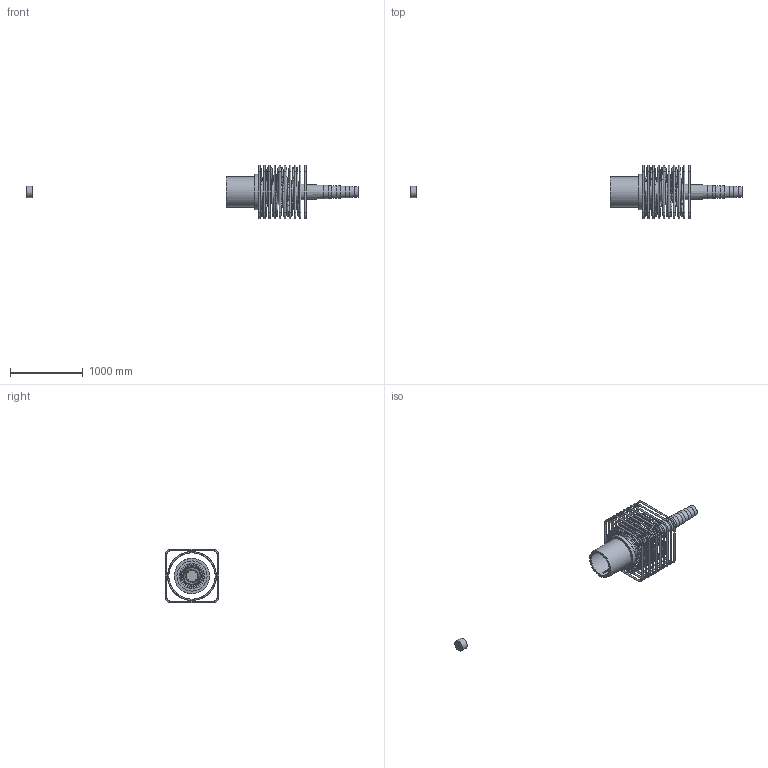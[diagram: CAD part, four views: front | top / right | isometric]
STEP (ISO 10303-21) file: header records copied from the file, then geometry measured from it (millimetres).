
FILE_DESCRIPTION(/* description */ (''),/* implementation_level */ '2;1');
FILE_NAME(/* name */ 'BBR VT CONA CMI BT 4306_Coupler H Assembly_CS-34,28.stp',/* time_stamp */ '2025-05-21T13:43:31+02:00',/* author */ ('tk'),/* organization */ (''),/* preprocessor_version */ 'ST-DEVELOPER v20',/* originating_system */ 'Autodesk Inventor 2024',/* authorisation */ '');
FILE_SCHEMA (('AUTOMOTIVE_DESIGN { 1 0 10303 214 3 1 1 }'));
Products named in the file (1): BBR VT CONA CMI BT 4306_Coupler H Assembly_CS-34,28
Bounding box: 4569.36 x 740 x 740 mm (x, y, z)
Volume: 266830415.9 mm3; surface area: 7034360.4 mm2
Topology: 12 solids, 12 shells, 896 faces, 2417 edges, 1592 vertices
Faces by surface type: bspline 370, plane 311, cylinder 126, torus 75, cone 12, sphere 2
Full cylindrical faces by diameter (mm): 20 x40, 35 x1, 57 x1, 149 x1, 155 x1, 159 x1, 169 x1, 179 x1, 282 x1, 377 x1, 390 x1, 413 x1, 485 x1
Entity records: 45385 total; most frequent: CARTESIAN_POINT 24493, ORIENTED_EDGE 4830, DIRECTION 3378, EDGE_CURVE 2415, VERTEX_POINT 1592, AXIS2_PLACEMENT_3D 1194, LINE 990, VECTOR 990
